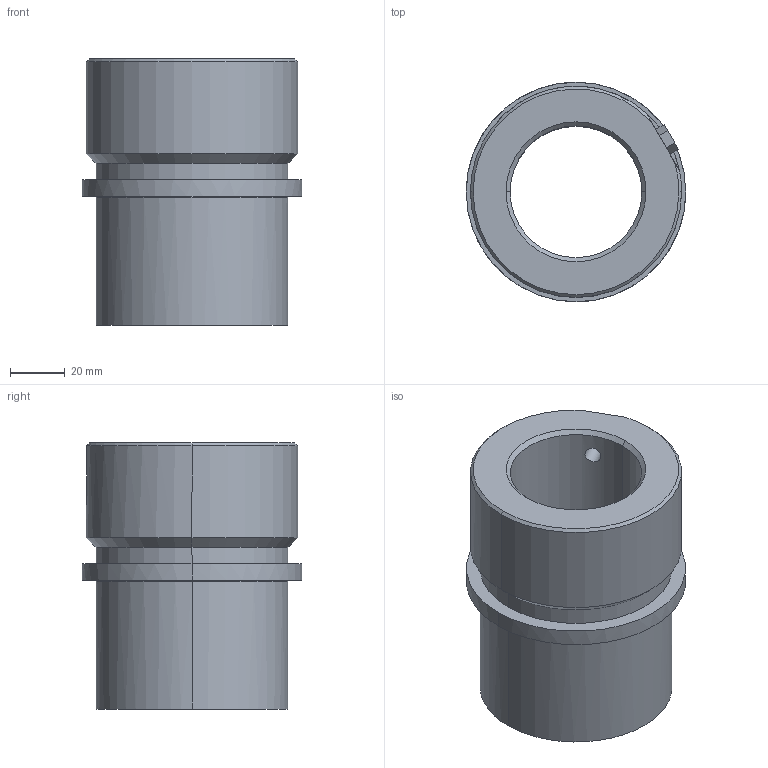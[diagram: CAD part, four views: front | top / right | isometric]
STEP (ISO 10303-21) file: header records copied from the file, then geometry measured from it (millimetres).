
FILE_DESCRIPTION(('CATIA V5 STEP Exchange'),'2;1');
FILE_NAME('C:\Users\Utente\Desktop\IO LAVORO\3D X SITO CF\X SITO\741\741-48.stp','2021-01-20T17:57:29+00:00',('none'),('none'),'CATIA Version 5 Release 20 GA (IN-10)','CATIA V5 STEP AP203','none');
FILE_SCHEMA(('CONFIG_CONTROL_DESIGN'));
Length unit declared in the file: millimetre
Products named in the file (1): 741-48
Assembly tree (1 placements, depth 2):
  741-48
    #58
Bounding box: 80 x 80 x 97 mm (x, y, z)
Volume: 232982.2 mm3; surface area: 44778 mm2
Topology: 1 solids, 1 shells, 42 faces, 93 edges, 58 vertices
Faces by surface type: plane 15, cylinder 14, cone 9, torus 4
Entity records: 1334 total; most frequent: CARTESIAN_POINT 366, ORIENTED_EDGE 186, DIRECTION 168, EDGE_CURVE 93, AXIS2_PLACEMENT_3D 81, VERTEX_POINT 58, EDGE_LOOP 49, VECTOR 44
